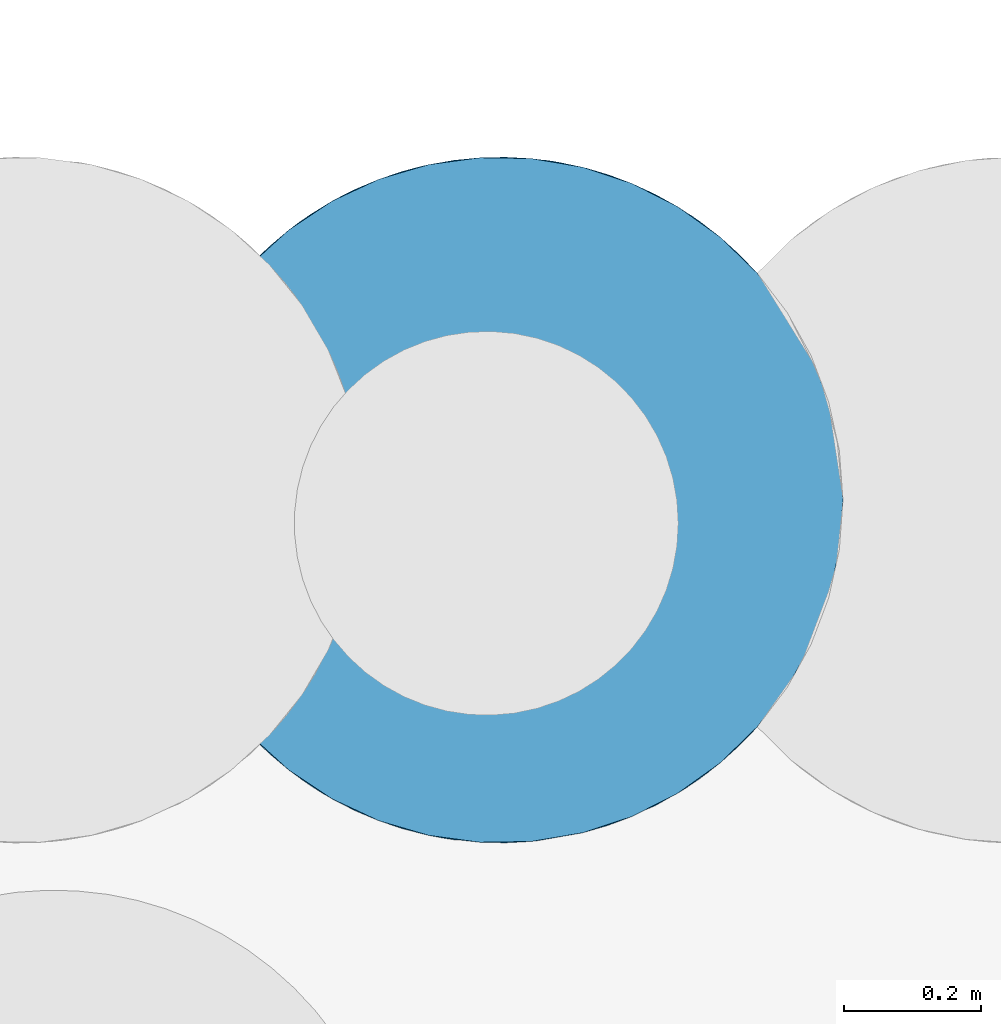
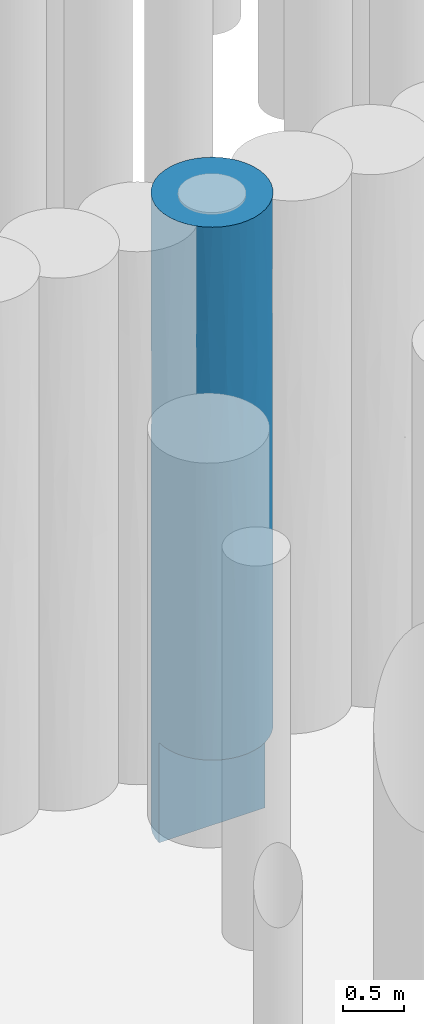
# One storey, part 86 of 104: 1 pile.
"""IFC2X3 building model written with IfcOpenShell, lengths in millimetres."""

from ifc_helpers import new_model, entity, si_unit, converted_unit, derived_unit, direction, frame, origin, place, context, subcontext, project, spatial, faceted_brep, source, transform, mapped, material, element, save


model = new_model("IFC2X3")

# Units and contexts
model_context = context("Model", 3, precision=0.01, world=origin(), true_north=direction((6.12303176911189e-17, 1.0)))
body_context = subcontext(model_context, "Body", "Model", "MODEL_VIEW")
ifc_project = project(units=[si_unit("LENGTHUNIT", "METRE", prefix="MILLI"), si_unit("AREAUNIT", "SQUARE_METRE", prefix="MILLI"), si_unit("VOLUMEUNIT", "CUBIC_METRE"), converted_unit("PLANEANGLEUNIT", "DEGREE", entity("IfcRatioMeasure", 0.0174532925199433), si_unit("PLANEANGLEUNIT", "RADIAN"), dimensions=[0, 0, 0, 0, 0, 0, 0]), si_unit("MASSUNIT", "GRAM", prefix="KILO"), derived_unit("MASSDENSITYUNIT", [(si_unit("MASSUNIT", "GRAM", prefix="KILO"), 1), (si_unit("LENGTHUNIT", "METRE"), -3)]), derived_unit("MOMENTOFINERTIAUNIT", [(si_unit("LENGTHUNIT", "METRE"), 4)]), si_unit("TIMEUNIT", "SECOND"), si_unit("FREQUENCYUNIT", "HERTZ"), si_unit("THERMODYNAMICTEMPERATUREUNIT", "DEGREE_CELSIUS"), derived_unit("THERMALTRANSMITTANCEUNIT", [(si_unit("MASSUNIT", "GRAM", prefix="KILO"), 1), (si_unit("THERMODYNAMICTEMPERATUREUNIT", "KELVIN"), -1), (si_unit("TIMEUNIT", "SECOND"), -3)]), derived_unit("VOLUMETRICFLOWRATEUNIT", [(si_unit("LENGTHUNIT", "METRE"), 3), (si_unit("TIMEUNIT", "SECOND"), -1)]), si_unit("ELECTRICCURRENTUNIT", "AMPERE"), si_unit("ELECTRICVOLTAGEUNIT", "VOLT"), si_unit("POWERUNIT", "WATT"), si_unit("FORCEUNIT", "NEWTON", prefix="KILO"), si_unit("ILLUMINANCEUNIT", "LUX"), si_unit("LUMINOUSFLUXUNIT", "LUMEN"), si_unit("LUMINOUSINTENSITYUNIT", "CANDELA"), derived_unit("USERDEFINED", [(si_unit("MASSUNIT", "GRAM", prefix="KILO"), -1), (si_unit("LENGTHUNIT", "METRE"), -2), (si_unit("TIMEUNIT", "SECOND"), 3), (si_unit("LUMINOUSFLUXUNIT", "LUMEN"), 1)]), derived_unit("LINEARVELOCITYUNIT", [(si_unit("LENGTHUNIT", "METRE"), 1), (si_unit("TIMEUNIT", "SECOND"), -1)]), si_unit("PRESSUREUNIT", "PASCAL"), derived_unit("USERDEFINED", [(si_unit("LENGTHUNIT", "METRE"), -2), (si_unit("MASSUNIT", "GRAM", prefix="KILO"), 1), (si_unit("TIMEUNIT", "SECOND"), -2)]), derived_unit("LINEARFORCEUNIT", [(si_unit("MASSUNIT", "GRAM", prefix="KILO"), 1), (si_unit("LENGTHUNIT", "METRE"), 1), (si_unit("TIMEUNIT", "SECOND"), -2), (si_unit("LENGTHUNIT", "METRE"), -1)]), derived_unit("PLANARFORCEUNIT", [(si_unit("MASSUNIT", "GRAM", prefix="KILO"), 1), (si_unit("LENGTHUNIT", "METRE"), 1), (si_unit("TIMEUNIT", "SECOND"), -2), (si_unit("LENGTHUNIT", "METRE"), -2)])], contexts=[model_context])

# Site, building, storey
site_placement = place(None, origin())
site = spatial("IfcSite", under=ifc_project, at=site_placement, Name="Theater aan de Parade", CompositionType="ELEMENT")
building_placement = place(site_placement, origin())
building = spatial("IfcBuilding", under=site, at=building_placement, Name="Theater aan de Parade", CompositionType="ELEMENT")
storey_placement = place(building_placement, frame((0.0, 0.0, -5520.0)))
storey = spatial("IfcBuildingStorey", under=building, at=storey_placement, Name="-2 kelder", CompositionType="ELEMENT", Elevation=-5520.0)

# Pile
ifc_material = material(Name="00_PBT_MAT_grout")
shared_shape = source(origin(), body_context, "Body", "Brep", [
    faceted_brep([(876.57998145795, 831.451891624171, 0.0), (920.315634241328, 773.989623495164, 0.0), (955.309868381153, 710.828052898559, 0.0), (980.842385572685, 643.281510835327, 0.0), (996.379070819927, 572.760204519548, 0.0), (1001.59527223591, 500.725541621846, 0.0), (1.5952722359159, 500.72554162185, 0.0), (7.29905558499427, 576.033245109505, 0.0), (24.2795084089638, 649.62034207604, 0.0), (52.1490246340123, 719.810161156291, 0.0), (90.271283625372, 785.001070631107, 0.0), (137.776274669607, 843.706207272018, 0.0), (193.580056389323, 894.586718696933, 0.0), (256.409487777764, 936.482275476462, 0.0), (324.831268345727, 968.437511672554, 0.0), (397.2846254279, 989.723792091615, 0.0), (472.116903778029, 999.855810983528, 0.0), (547.621246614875, 998.602644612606, 0.0), (622.075509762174, 985.9930063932, 0.0), (693.781522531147, 962.314585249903, 0.0), (761.103801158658, 928.107482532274, 0.0), (822.50683311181, 884.15189712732, 0.0), (792.636322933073, 907.290550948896, 900.801443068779), (899.493836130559, 803.507200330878, 1281.28779923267), (434.509211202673, 996.20456278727, 5289.956775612), (585.086770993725, 993.705429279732, 5289.95727101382), (509.892766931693, 1000.65668846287, 4453.77588042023), (994.752446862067, 583.163403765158, 1549.23112811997), (1001.59527223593, 500.725541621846, 2098.46227402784), (1001.59527223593, 500.725541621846, 1780.76885295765), (1001.59527223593, 500.725541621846, 1000.0), (996.379070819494, 572.760204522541, 6320.0), (1001.59527223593, 500.72554162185, 6320.0), (1001.59527223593, 500.725541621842, 5539.2311470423), (1001.59527223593, 500.72554162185, 4758.46227402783), (969.297123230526, 677.51631789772, 1281.29616469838), (144.767298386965, 850.973735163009, 948.189536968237), (728.089365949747, 946.483800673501, 4873.93988861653), (761.103801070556, 928.107482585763, 6320.0), (850.547623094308, 858.820859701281, 5361.9285718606), (884.169857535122, 822.65206535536, 3231.96422939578), (850.547622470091, 858.820860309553, 4342.84963373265), (919.854515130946, 774.694893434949, 4298.76972570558), (693.781522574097, 962.314585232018, 6320.0), (792.636322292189, 907.290551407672, 1866.22293823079), (658.376169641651, 975.509440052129, 1417.76125850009), (164.716200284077, 870.201509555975, 5115.56925169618), (89.1913548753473, 783.432119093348, 5067.81290776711), (137.776274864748, 843.706207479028, 6320.0), (876.595272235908, 831.444455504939, 6320.0), (822.506832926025, 884.151897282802, 6320.0), (10.276778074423, 593.494810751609, 5312.33059236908), (1.5952722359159, 500.72554162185, 6320.0), (7.29905558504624, 576.033245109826, 6320.0), (164.716199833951, 870.20150914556, 1866.24070053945), (224.202687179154, 916.722361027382, 1030.0567397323), (509.892766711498, 1000.65668846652, 900.80176910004), (324.831268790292, 968.437511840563, 6320.0), (290.016232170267, 953.753476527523, 4759.082396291), (256.409488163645, 936.482275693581, 6320.0), (54.468830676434, 724.506562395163, 3205.35925445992), (11.6427411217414, 600.457769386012, 2647.6934375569), (13.6039291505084, 609.649593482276, 3842.26209027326), (262.166575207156, 939.67189260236, 2075.3069820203), (981.704695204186, 640.349830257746, 5294.90741391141), (969.297122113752, 677.516320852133, 4334.74609384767), (938.954431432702, 743.041380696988, 5244.06814021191), (69.977601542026, 753.126386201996, 1066.61670201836), (987.128071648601, 620.131993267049, 2647.69338846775), (938.954431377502, 743.041380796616, 2426.27080083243), (955.309868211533, 710.828053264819, 6320.0), (980.842385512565, 643.281511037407, 6320.0), (579.594282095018, 994.604225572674, 2568.01826131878), (474.358612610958, 999.983154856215, 3160.0), (567.51316059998, 996.361327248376, 3513.47730427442), (90.6388431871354, 785.532166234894, 2059.43479581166), (139.12720637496, 845.13358628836, 2974.85613772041), (920.315633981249, 773.989623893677, 6320.0), (781.475305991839, 915.052908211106, 3359.78572861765), (391.760366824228, 988.512681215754, 4251.80734669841), (379.970724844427, 985.707468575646, 3262.26653122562), (355.744362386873, 978.980193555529, 2408.54953887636), (547.621246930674, 998.602644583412, 6320.0), (622.075509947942, 985.993006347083, 6320.0), (360.655510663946, 980.450445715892, 1417.77077928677), (193.580056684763, 894.586718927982, 6320.0), (509.89276626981, 1000.65668847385, 1866.22412079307), (667.004159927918, 972.572868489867, 2288.88062744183), (202.150670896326, 901.141488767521, 3842.56752816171), (25.8259181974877, 654.490042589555, 996.309874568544), (36.8871818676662, 685.242182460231, 1947.42963499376), (1.5952722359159, 500.72554162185, 1000.0), (1.5952722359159, 500.72554162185, 4758.45410358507), (1001.59527223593, 500.725541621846, 3196.9245480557), (1001.59527223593, 500.725541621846, 2561.53770591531), (877.378035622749, 830.554762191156, 2232.54780573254), (472.116904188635, 999.855811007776, 6320.0), (397.284625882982, 989.723792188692, 6320.0), (90.2712837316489, 785.001070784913, 6320.0), (52.1490246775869, 719.810161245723, 6320.0), (36.8871819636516, 685.242182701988, 4793.63754652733), (112.91386601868, 815.251795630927, 4072.09797917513), (290.016231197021, 953.753476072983, 3160.0), (212.036435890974, 908.347523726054, 2799.2682067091), (9.94498645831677, 591.720027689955, 1707.29736290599), (1.5952722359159, 500.72554162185, 1780.76456607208), (1.5952722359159, 500.72554162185, 2098.47265322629), (24.2795084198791, 649.620342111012, 6320.0), (628.456804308, 984.363993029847, 4244.7119400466), (994.636949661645, 583.851375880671, 4300.47280295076), (983.60438190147, 633.643629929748, 3539.66568283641), (658.376168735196, 975.509440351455, 3160.0), (948.792852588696, 724.36436679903, 3428.54792882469), (1.5952722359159, 500.72554162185, 3196.90820717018), (1001.59527223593, 500.725541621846, 4123.07541183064), (36.8871820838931, 316.2089002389, 2282.94397358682), (52.1490246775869, 281.640921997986, 1000.0), (93.2246147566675, 212.223537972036, 2103.001406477), (69.9776018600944, 248.324696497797, 3416.12924016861), (18.7898659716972, 370.729619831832, 3386.13449560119), (290.016232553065, 47.6976065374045, 2307.33068659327), (324.831268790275, 33.0135714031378, 1000.0), (419.063436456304, 7.58408515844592, 1821.13304730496), (996.379070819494, 428.690878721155, 6320.0), (996.379070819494, 428.690878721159, 1000.0), (955.30986821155, 290.62302997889, 6320.0), (991.238555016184, 399.485946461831, 5415.25030213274), (980.842385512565, 358.169572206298, 6320.0), (397.284625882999, 11.7272910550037, 1000.0), (164.716200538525, 131.249573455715, 2582.44925164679), (137.776274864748, 157.744875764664, 1000.0), (193.580056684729, 106.86436431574, 1000.0), (7.29905558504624, 425.417838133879, 1000.0), (11.3540703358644, 402.422113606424, 1890.2755618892), (256.409488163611, 64.9688075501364, 1000.0), (90.2712837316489, 216.450012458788, 1000.0), (434.509211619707, 5.2465203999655, 2654.89372143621), (509.892767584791, 0.794394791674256, 1936.75649226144), (547.621246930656, 2.84843866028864, 1000.0), (472.116904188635, 1.59527223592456, 1000.0), (112.913866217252, 186.199287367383, 5376.65140538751), (52.1490246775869, 281.640921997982, 6320.0), (36.8871820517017, 316.208900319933, 4805.76219276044), (994.269521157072, 415.449024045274, 2171.15327926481), (290.016232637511, 47.6976064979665, 3660.0), (212.150292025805, 93.0227044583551, 3717.95390343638), (988.649679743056, 387.68570736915, 3393.35222772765), (658.376170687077, 25.9416435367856, 2398.00482701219), (622.075509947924, 15.458076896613, 1000.0), (693.781522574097, 39.1364980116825, 1000.0), (24.2795084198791, 351.830741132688, 1000.0), (822.506832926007, 117.299185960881, 1000.0), (850.547623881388, 142.630224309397, 2553.97108905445), (763.6650085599, 74.9093215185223, 2107.73840082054), (256.409488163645, 64.9688075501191, 6320.0), (193.580056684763, 106.864364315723, 6320.0), (224.202687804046, 84.728721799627, 5376.65294150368), (10.2037711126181, 408.343765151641, 5313.94229467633), (7.29905558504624, 425.417838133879, 6320.0), (92.5012653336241, 213.250162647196, 4383.69277833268), (164.716200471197, 131.249573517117, 4649.9546534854), (24.2795084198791, 351.830741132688, 6320.0), (938.954432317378, 258.409704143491, 3408.92084500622), (969.297123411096, 323.934765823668, 2273.11211038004), (403.172502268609, 10.5082853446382, 3713.75213061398), (554.307735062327, 3.51190920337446, 3027.2591155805), (137.776274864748, 157.744875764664, 6320.0), (90.2712837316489, 216.450012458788, 6320.0), (244.726769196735, 71.7516821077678, 4468.10287714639), (360.655511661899, 21.0006372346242, 4921.99238906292), (324.831268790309, 33.0135714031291, 6320.0), (876.595272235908, 170.006627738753, 1000.0), (397.284625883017, 11.7272910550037, 6320.0), (792.636323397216, 94.1605326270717, 5376.64849098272), (693.781522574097, 39.1364980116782, 6320.0), (658.376170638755, 25.9416435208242, 4921.9951726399), (850.547623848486, 142.63022427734, 4649.96105913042), (772.555761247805, 80.5108186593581, 4468.09815531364), (509.892767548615, 0.794394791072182, 5286.70109237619), (509.892767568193, 0.794394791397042, 4196.60792173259), (621.372646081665, 15.2841129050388, 3902.47585236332), (622.075509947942, 15.4580768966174, 6320.0), (547.621246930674, 2.84843866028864, 6320.0), (761.103801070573, 73.3436006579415, 1000.0), (920.315633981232, 227.461459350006, 1000.0), (920.17977569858, 227.253397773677, 2451.40696236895), (980.842385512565, 358.169572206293, 1000.0), (772.038360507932, 80.1776418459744, 2951.08213190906), (920.100930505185, 227.132752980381, 4393.15015872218), (870.939303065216, 163.701823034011, 3601.96607418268), (955.309868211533, 290.623029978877, 1000.0), (969.297123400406, 323.934765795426, 4807.65108384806), (10.7458008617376, 405.505814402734, 4339.27791172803), (993.924896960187, 413.481397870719, 4524.56175537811), (472.116904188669, 1.59527223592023, 6320.0), (144.004171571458, 151.256509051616, 3616.20195236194), (899.493836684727, 197.943883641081, 5379.82597987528), (822.506832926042, 117.299185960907, 6320.0), (761.10380107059, 73.3436006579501, 6320.0), (876.595272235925, 170.00662773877, 6320.0), (920.315633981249, 227.461459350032, 6320.0), (804.692108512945, 103.067009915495, 3716.03890026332), (728.089366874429, 54.9672830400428, 3660.0)], [[[0, 1, 2, 3, 4, 5, 6, 7, 8, 9, 10, 11, 12, 13, 14, 15, 16, 17, 18, 19, 20, 21]], [[0, 22, 23]], [[24, 25, 26]], [[27, 28, 29, 30]], [[31, 32, 33, 34]], [[5, 4, 30]], [[35, 27, 3]], [[23, 35, 2]], [[36, 12, 11]], [[37, 38, 39]], [[40, 41, 42]], [[37, 43, 38]], [[44, 22, 45]], [[19, 18, 45]], [[46, 47, 48]], [[49, 39, 50]], [[19, 45, 22]], [[20, 22, 21]], [[51, 52, 53]], [[36, 54, 55]], [[56, 17, 16]], [[35, 3, 2]], [[45, 18, 56]], [[57, 58, 59]], [[60, 61, 62]], [[54, 63, 55]], [[34, 64, 31]], [[65, 66, 64]], [[10, 9, 67]], [[2, 1, 23]], [[68, 35, 69]], [[66, 70, 64]], [[64, 70, 71]], [[72, 73, 74]], [[54, 75, 76]], [[77, 70, 66]], [[77, 66, 39]], [[69, 35, 23]], [[40, 78, 41]], [[39, 38, 50]], [[58, 24, 79]], [[25, 43, 37]], [[80, 73, 81]], [[25, 82, 83]], [[56, 15, 84]], [[12, 55, 13]], [[59, 46, 85]], [[86, 56, 84]], [[42, 39, 66]], [[42, 66, 65]], [[45, 72, 87]], [[36, 55, 12]], [[88, 46, 58]], [[89, 90, 67]], [[45, 86, 72]], [[56, 18, 17]], [[89, 7, 91]], [[51, 62, 92]], [[22, 0, 21]], [[27, 4, 3]], [[23, 1, 0]], [[89, 67, 9]], [[68, 93, 94, 28]], [[69, 95, 40]], [[91, 7, 6]], [[96, 25, 24]], [[24, 97, 96]], [[98, 47, 99]], [[36, 75, 54]], [[100, 47, 101]], [[58, 46, 59]], [[76, 60, 101]], [[102, 103, 88]], [[82, 25, 96]], [[57, 97, 24]], [[85, 46, 48]], [[104, 91, 105, 106]], [[9, 8, 89]], [[78, 37, 41]], [[47, 46, 101]], [[51, 107, 100]], [[14, 13, 55]], [[108, 26, 25]], [[39, 42, 41]], [[109, 93, 110]], [[99, 100, 107]], [[51, 92, 52]], [[84, 63, 81]], [[15, 14, 84]], [[75, 67, 90]], [[36, 10, 67]], [[43, 25, 83]], [[108, 111, 74]], [[79, 24, 26]], [[57, 24, 58]], [[76, 103, 54]], [[14, 55, 84]], [[39, 49, 77]], [[37, 39, 41]], [[56, 16, 15]], [[45, 56, 86]], [[22, 20, 19]], [[23, 22, 44]], [[25, 37, 108]], [[78, 108, 37]], [[81, 63, 102]], [[84, 55, 63]], [[73, 79, 26]], [[102, 58, 79]], [[26, 108, 74]], [[86, 84, 81]], [[112, 110, 68]], [[68, 28, 27]], [[68, 69, 112]], [[60, 75, 90]], [[75, 60, 76]], [[90, 104, 61]], [[100, 101, 60]], [[88, 76, 101]], [[63, 103, 102]], [[46, 88, 101]], [[58, 102, 88]], [[31, 64, 71]], [[109, 64, 34]], [[65, 112, 42]], [[42, 112, 40]], [[95, 69, 23]], [[44, 87, 78]], [[78, 40, 95]], [[78, 111, 108]], [[112, 65, 110]], [[40, 112, 69]], [[7, 89, 8]], [[89, 104, 90]], [[62, 61, 113]], [[61, 106, 113]], [[60, 90, 61]], [[92, 62, 113]], [[60, 62, 100]], [[91, 104, 89]], [[61, 104, 106]], [[80, 81, 102]], [[86, 81, 73]], [[102, 79, 80]], [[79, 73, 80]], [[109, 110, 65]], [[93, 68, 110]], [[64, 109, 65]], [[109, 34, 114, 93]], [[10, 36, 11]], [[75, 36, 67]], [[4, 27, 30]], [[68, 27, 35]], [[99, 47, 100]], [[48, 47, 98]], [[23, 44, 95]], [[78, 95, 44]], [[72, 74, 111]], [[26, 74, 73]], [[72, 111, 87]], [[73, 72, 86]], [[78, 87, 111]], [[44, 45, 87]], [[54, 103, 63]], [[88, 103, 76]], [[107, 51, 53]], [[62, 51, 100]], [[115, 116, 117]], [[115, 118, 119]], [[120, 121, 122]], [[33, 32, 123]], [[124, 30, 29]], [[125, 126, 127]], [[121, 128, 122]], [[129, 130, 131]], [[132, 133, 105]], [[120, 134, 121]], [[135, 117, 116]], [[136, 122, 137]], [[138, 137, 139]], [[140, 141, 142]], [[143, 124, 29]], [[120, 144, 145]], [[129, 131, 120]], [[115, 117, 118]], [[113, 133, 119]], [[146, 94, 93, 114]], [[147, 148, 149]], [[129, 117, 130]], [[133, 150, 115]], [[150, 116, 115]], [[133, 113, 106, 105]], [[151, 152, 153]], [[154, 155, 156]], [[157, 158, 52]], [[140, 159, 160]], [[161, 142, 141]], [[105, 91, 132]], [[162, 163, 146]], [[164, 136, 165]], [[156, 166, 140]], [[166, 156, 155]], [[140, 166, 167]], [[168, 169, 156]], [[170, 154, 156]], [[152, 151, 171]], [[170, 169, 172]], [[173, 174, 175]], [[176, 173, 177]], [[175, 178, 179]], [[153, 147, 149]], [[164, 169, 144]], [[136, 137, 165]], [[180, 175, 179]], [[178, 181, 182]], [[183, 153, 149]], [[184, 185, 171]], [[169, 179, 178]], [[124, 143, 186]], [[147, 153, 187]], [[162, 188, 189]], [[126, 33, 123]], [[184, 190, 185]], [[157, 161, 158]], [[144, 168, 145]], [[190, 186, 163]], [[125, 191, 126]], [[120, 131, 134]], [[192, 113, 119]], [[193, 33, 126]], [[139, 137, 122]], [[194, 178, 182]], [[175, 181, 178]], [[175, 174, 181]], [[160, 159, 195]], [[156, 140, 160]], [[173, 176, 196]], [[52, 92, 157]], [[197, 198, 173]], [[163, 185, 190]], [[163, 162, 185]], [[196, 188, 191]], [[197, 173, 196]], [[196, 199, 197]], [[146, 191, 162]], [[136, 144, 120]], [[196, 200, 199]], [[196, 125, 200]], [[201, 152, 189]], [[178, 194, 172]], [[147, 137, 148]], [[165, 180, 179]], [[178, 172, 169]], [[188, 196, 176]], [[125, 196, 191]], [[168, 156, 160]], [[170, 156, 169]], [[141, 140, 167]], [[159, 142, 118]], [[174, 173, 198]], [[177, 175, 202]], [[148, 137, 138]], [[165, 137, 147]], [[180, 147, 202]], [[164, 165, 179]], [[189, 188, 176]], [[191, 188, 162]], [[176, 177, 201]], [[189, 152, 185]], [[142, 159, 140]], [[195, 118, 129]], [[118, 195, 159]], [[129, 120, 145]], [[163, 143, 146]], [[146, 114, 193]], [[145, 160, 195]], [[169, 168, 144]], [[175, 177, 173]], [[201, 177, 202]], [[118, 142, 119]], [[192, 142, 157]], [[127, 126, 123]], [[193, 126, 191]], [[146, 193, 191]], [[193, 114, 34, 33]], [[160, 145, 168]], [[129, 145, 195]], [[201, 202, 187]], [[176, 201, 189]], [[150, 133, 132]], [[119, 133, 115]], [[147, 180, 165]], [[175, 180, 202]], [[120, 122, 136]], [[139, 122, 128]], [[169, 164, 179]], [[144, 136, 164]], [[192, 157, 92]], [[161, 157, 142]], [[113, 192, 92]], [[119, 142, 192]], [[151, 153, 183]], [[152, 201, 187]], [[147, 187, 202]], [[152, 187, 153]], [[189, 185, 162]], [[185, 152, 171]], [[143, 29, 28, 94]], [[146, 143, 94]], [[143, 163, 186]], [[130, 117, 135]], [[118, 117, 129]], [[38, 43, 83, 82, 96, 97, 57, 59, 85, 48, 98, 99, 107, 53, 52, 158, 161, 141, 167, 166, 155, 154, 170, 172, 194, 182, 181, 174, 198, 197, 199, 200, 125, 127, 123, 32, 31, 71, 70, 77, 49, 50]], [[132, 91, 30, 124, 186, 190, 184, 171, 151, 183, 149, 148, 138, 139, 128, 121, 134, 131, 130, 135, 116, 150]], [[30, 91, 6, 5]]]),
])
pile_placement = place(storey_placement, frame((78498.4047277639, 20203.2504775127, -3840.0)))
element("IfcPile", 1, at=pile_placement, inside=storey, material=ifc_material, Name="17_PBT_SFO_grondkering_rond:Ø1000 (grondkering)", ObjectType="17_PBT_SFO_grondkering_rond:Ø1000 (grondkering)", PredefinedType="NOTDEFINED", context=body_context, shape_type="MappedRepresentation", body=[
    mapped(shared_shape, transform((0.0, 0.0, 0.0), scale=1.0)),
])

save(model, "model.ifc")
